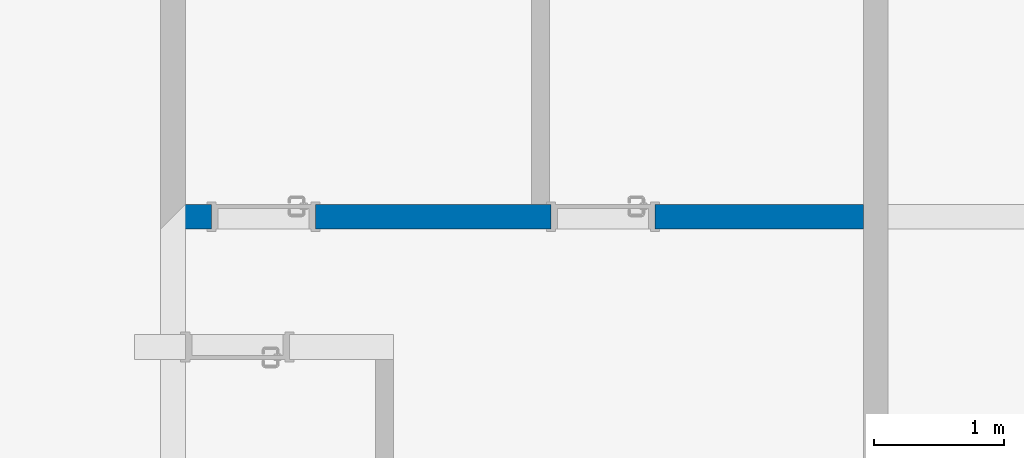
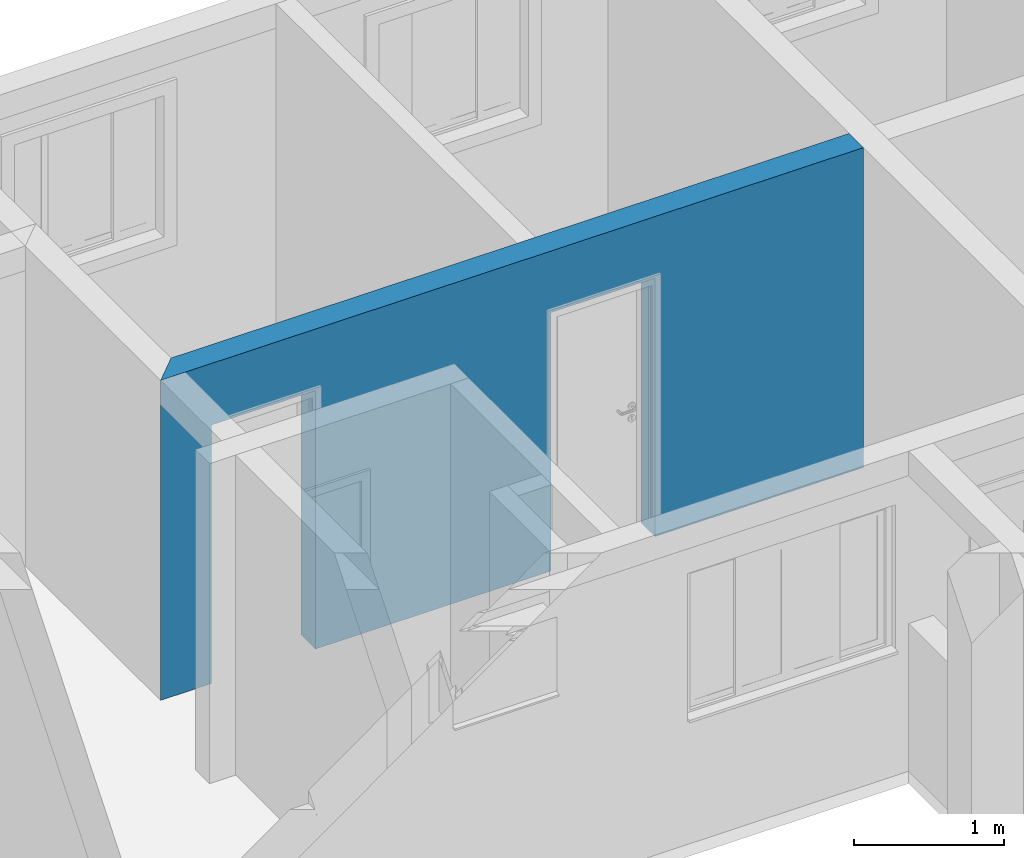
# One storey, part 35 of 47: 1 wall, 2 openings.
"""IFC2X3 building model written with IfcOpenShell, lengths in millimetres."""

from ifc_helpers import new_model, entity, si_unit, converted_unit, derived_unit, money_unit, direction, frame, origin_with_axes, origin_2d_with_axis, place, context, subcontext, project, spatial, polyline, rectangle, outline, extrude, material, layer, layer_set, layer_usage, type_object, element, save


model = new_model("IFC2X3")

# Units and contexts
model_context = context("Model", 3, precision=0.01, world=origin_with_axes(), true_north=direction((0.0, 1.0)))
body_context = subcontext(model_context, "Body", "Model", "MODEL_VIEW")
ifc_project = project(units=[si_unit("LENGTHUNIT", "METRE", prefix="MILLI"), si_unit("AREAUNIT", "SQUARE_METRE"), si_unit("VOLUMEUNIT", "CUBIC_METRE"), converted_unit("PLANEANGLEUNIT", "DEGREE", entity("IfcPlaneAngleMeasure", 0.0174532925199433), si_unit("PLANEANGLEUNIT", "RADIAN"), dimensions=[0, 0, 0, 0, 0, 0, 0]), money_unit("USD"), converted_unit("TIMEUNIT", "Year", entity("IfcTimeMeasure", 31557600.0), si_unit("TIMEUNIT", "SECOND"), dimensions=[0, 0, 1, 0, 0, 0, 0]), si_unit("MASSUNIT", "GRAM", prefix="KILO"), si_unit("THERMODYNAMICTEMPERATUREUNIT", "DEGREE_CELSIUS"), si_unit("LUMINOUSINTENSITYUNIT", "LUMEN"), si_unit("ENERGYUNIT", "JOULE", prefix="MEGA"), derived_unit("THERMALCONDUCTANCEUNIT", [(si_unit("POWERUNIT", "WATT"), 1), (si_unit("LENGTHUNIT", "METRE"), -1), (si_unit("THERMODYNAMICTEMPERATUREUNIT", "KELVIN"), -1)]), derived_unit("SPECIFICHEATCAPACITYUNIT", [(si_unit("ENERGYUNIT", "JOULE"), 1), (si_unit("MASSUNIT", "GRAM", prefix="KILO"), -1), (si_unit("THERMODYNAMICTEMPERATUREUNIT", "KELVIN"), -1)]), derived_unit("MASSDENSITYUNIT", [(si_unit("MASSUNIT", "GRAM", prefix="KILO"), 1), (si_unit("VOLUMEUNIT", "CUBIC_METRE"), -1)])], contexts=[model_context])

# Site, building, storey
site_placement = place(None, origin_with_axes())
site = spatial("IfcSite", under=ifc_project, at=site_placement, Name="Local", CompositionType="ELEMENT")
building_placement = place(site_placement, origin_with_axes())
building = spatial("IfcBuilding", under=site, at=building_placement, Name="Construção", CompositionType="ELEMENT")
storey_placement = place(building_placement, origin_with_axes())
storey = spatial("IfcBuildingStorey", under=building, at=storey_placement, Name="Pavimento Tipo", CompositionType="ELEMENT", Elevation=0.0)

# Wall, openings
ifc_material = material(Name="Concreto - Estrutural")
ifc_layer = layer(ifc_material, 190.0, ventilated="UNKNOWN")
ifc_layer_set = layer_set([ifc_layer], Name="Concreto - Estrutural 190")
ifc_layer_usage = layer_usage(ifc_layer_set, "AXIS2", "POSITIVE", 0.0)
wall_type = type_object("IfcWallType", Name="Concreto - Estrutural 190", PredefinedType="NOTDEFINED")
wall_placement = place(storey_placement, frame((-4547.433002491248, 15596.98141771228, 0.0), z_axis=(0.0, 0.0, 1.0), x_axis=(1.0, 0.0, 0.0)))
wall = element("IfcWallStandardCase", 1, at=wall_placement, inside=storey, type_object=wall_type, material=ifc_layer_usage, Name="Apartamento 2 - Parede-084", context=body_context, shape_type="SweptSolid", body=[
    extrude(outline(polyline([(0.0, 0.0), (5399.999999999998, 0.0), (5399.999999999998, 189.9999999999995), (189.9999999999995, 189.9999999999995), (0.0, 0.0)])), origin_with_axes(), (0.0, 0.0, 1.0), 2600.0),
])
opening_1_placement = place(wall_placement, frame((790.0000000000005, 0.0, 0.0), z_axis=(0.0, 0.0, 1.0), x_axis=(1.0, 0.0, 0.0)))
element("IfcOpeningElement", 2, at=opening_1_placement, cuts=wall, Name="Apartamento 2 - P03", context=body_context, shape_type="SweptSolid", body=[
    extrude(rectangle(XDim=799.9999999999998, YDim=2100.0, at=origin_2d_with_axis()), frame((0.0, 189.9999999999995, 1050.0), z_axis=(0.0, 1.0, 0.0), x_axis=(-1.0, 0.0, 0.0)), (0.0, 0.0, -1.0), 570.0000000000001),
    extrude(rectangle(XDim=870.0000000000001, YDim=2135.0, at=origin_2d_with_axis()), frame((0.0, 189.9999999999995, 1067.5), z_axis=(0.0, 1.0, 0.0), x_axis=(-1.0, 0.0, 0.0)), (0.0, 0.0, 1.0), 190.0),
    extrude(rectangle(XDim=870.0000000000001, YDim=2135.0, at=origin_2d_with_axis()), frame((0.0, 0.0, 1067.5), z_axis=(0.0, -1.0, 0.0), x_axis=(-1.0, 0.0, 0.0)), (0.0, 0.0, 1.0), 190.0),
])
opening_2_placement = place(wall_placement, frame((3400.0, 0.0, 0.0), z_axis=(0.0, 0.0, 1.0), x_axis=(1.0, 0.0, 0.0)))
element("IfcOpeningElement", 3, at=opening_2_placement, cuts=wall, Name="Apartamento 2 - P04", context=body_context, shape_type="SweptSolid", body=[
    extrude(rectangle(XDim=799.9999999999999, YDim=2100.0, at=origin_2d_with_axis()), frame((0.0, 189.9999999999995, 1050.0), z_axis=(0.0, 1.0, 0.0), x_axis=(-1.0, 0.0, 0.0)), (0.0, 0.0, -1.0), 570.0000000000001),
    extrude(rectangle(XDim=870.0000000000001, YDim=2135.0, at=origin_2d_with_axis()), frame((0.0, 189.9999999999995, 1067.5), z_axis=(0.0, 1.0, 0.0), x_axis=(-1.0, 0.0, 0.0)), (0.0, 0.0, 1.0), 190.0),
    extrude(rectangle(XDim=870.0000000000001, YDim=2135.0, at=origin_2d_with_axis()), frame((0.0, 0.0, 1067.5), z_axis=(0.0, -1.0, 0.0), x_axis=(-1.0, 0.0, 0.0)), (0.0, 0.0, 1.0), 190.0),
])

save(model, "model.ifc")
